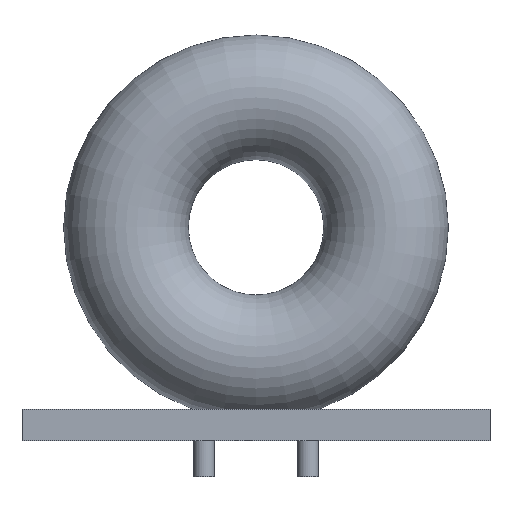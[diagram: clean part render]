
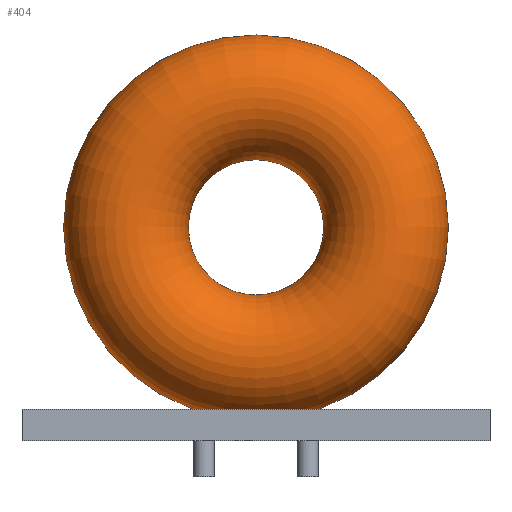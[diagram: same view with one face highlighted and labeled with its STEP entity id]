
A CAD part, front view. The second image highlights one B-rep face of the part: STEP entity #404.
In plain terms, the highlighted toroidal (fillet/blend) face has major radius 12.5 mm and minor radius 6 mm.
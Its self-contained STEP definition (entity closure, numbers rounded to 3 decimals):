
#404 = ADVANCED_FACE('',(#405),#418,.T.);
#405 = FACE_BOUND('',#406,.T.);
#406 = EDGE_LOOP('',(#407,#436,#458,#459));
#407 = ORIENTED_EDGE('',*,*,#408,.F.);
#408 = EDGE_CURVE('',#409,#409,#411,.T.);
#409 = VERTEX_POINT('',#410);
#410 = CARTESIAN_POINT('',(18.5,0.,0.)
  );
#411 = SEAM_CURVE('',#412,(#417,#429),.PCURVE_S1.);
#412 = CIRCLE('',#413,18.5);
#413 = AXIS2_PLACEMENT_3D('',#414,#415,#416);
#414 = CARTESIAN_POINT('',(0.,0.,0.));
#415 = DIRECTION('',(0.,0.,1.));
#416 = DIRECTION('',(1.,0.,-0.));
#417 = PCURVE('',#418,#423);
#418 = TOROIDAL_SURFACE('',#419,12.5,6.);
#419 = AXIS2_PLACEMENT_3D('',#420,#421,#422);
#420 = CARTESIAN_POINT('',(0.,0.,0.));
#421 = DIRECTION('',(0.,0.,1.));
#422 = DIRECTION('',(1.,0.,-0.));
#423 = DEFINITIONAL_REPRESENTATION('',(#424),#428);
#424 = LINE('',#425,#426);
#425 = CARTESIAN_POINT('',(0.,6.283));
#426 = VECTOR('',#427,1.);
#427 = DIRECTION('',(1.,0.));
#428 = ( GEOMETRIC_REPRESENTATION_CONTEXT(2) 
PARAMETRIC_REPRESENTATION_CONTEXT() REPRESENTATION_CONTEXT('2D SPACE',''
  ) );
#429 = PCURVE('',#418,#430);
#430 = DEFINITIONAL_REPRESENTATION('',(#431),#435);
#431 = LINE('',#432,#433);
#432 = CARTESIAN_POINT('',(0.,0.));
#433 = VECTOR('',#434,1.);
#434 = DIRECTION('',(1.,0.));
#435 = ( GEOMETRIC_REPRESENTATION_CONTEXT(2) 
PARAMETRIC_REPRESENTATION_CONTEXT() REPRESENTATION_CONTEXT('2D SPACE',''
  ) );
#436 = ORIENTED_EDGE('',*,*,#437,.F.);
#437 = EDGE_CURVE('',#409,#409,#438,.T.);
#438 = SEAM_CURVE('',#439,(#444,#451),.PCURVE_S1.);
#439 = CIRCLE('',#440,6.);
#440 = AXIS2_PLACEMENT_3D('',#441,#442,#443);
#441 = CARTESIAN_POINT('',(12.5,0.,0.));
#442 = DIRECTION('',(0.,-1.,0.));
#443 = DIRECTION('',(1.,0.,0.));
#444 = PCURVE('',#418,#445);
#445 = DEFINITIONAL_REPRESENTATION('',(#446),#450);
#446 = LINE('',#447,#448);
#447 = CARTESIAN_POINT('',(6.283,-0.));
#448 = VECTOR('',#449,1.);
#449 = DIRECTION('',(0.,1.));
#450 = ( GEOMETRIC_REPRESENTATION_CONTEXT(2) 
PARAMETRIC_REPRESENTATION_CONTEXT() REPRESENTATION_CONTEXT('2D SPACE',''
  ) );
#451 = PCURVE('',#418,#452);
#452 = DEFINITIONAL_REPRESENTATION('',(#453),#457);
#453 = LINE('',#454,#455);
#454 = CARTESIAN_POINT('',(0.,-0.));
#455 = VECTOR('',#456,1.);
#456 = DIRECTION('',(0.,1.));
#457 = ( GEOMETRIC_REPRESENTATION_CONTEXT(2) 
PARAMETRIC_REPRESENTATION_CONTEXT() REPRESENTATION_CONTEXT('2D SPACE',''
  ) );
#458 = ORIENTED_EDGE('',*,*,#408,.T.);
#459 = ORIENTED_EDGE('',*,*,#437,.T.);
